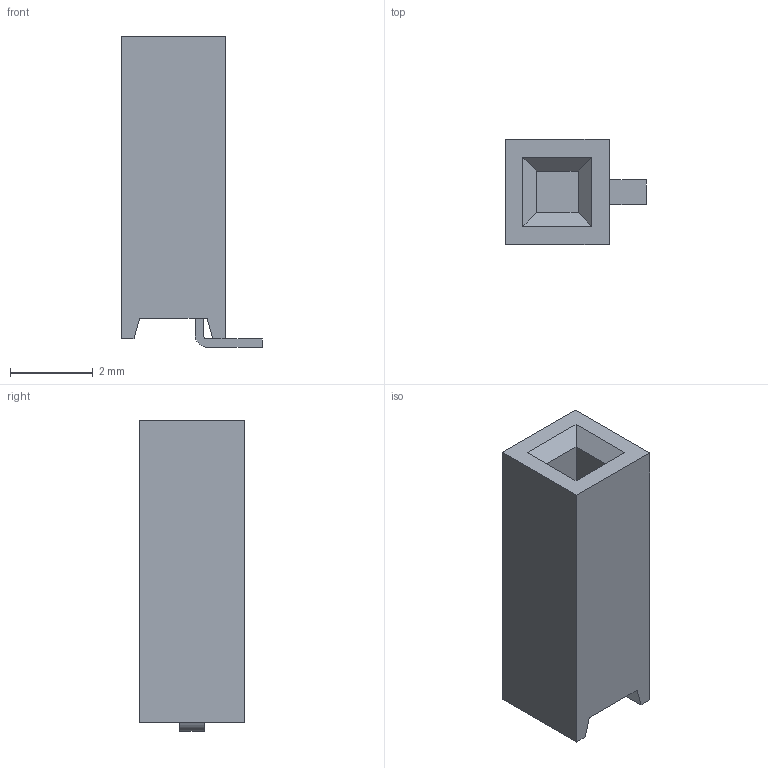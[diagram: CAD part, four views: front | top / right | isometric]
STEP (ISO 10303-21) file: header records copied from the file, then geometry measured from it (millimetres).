
FILE_DESCRIPTION(('FreeCAD Model'),'2;1');
FILE_NAME('Open CASCADE Shape Model','2025-02-24T21:20:07',( 'Krisjanis Rijnieks'),(''),'Open CASCADE STEP processor 7.7', 'FreeCAD','Unknown');
FILE_SCHEMA(('AUTOMOTIVE_DESIGN { 1 0 10303 214 1 1 1 1 }'));
Length unit declared in the file: millimetre
Products named in the file (3): 01x01_P2.54mm_Vertical_SMD; Body; Lead
Assembly tree (2 placements, depth 2):
  01x01_P2.54mm_Vertical_SMD
    Body
    Lead
Bounding box: 3.4 x 2.54 x 7.5 mm (x, y, z)
Volume: 40.4 mm3; surface area: 105.9 mm2
Topology: 2 solids, 2 shells, 29 faces, 68 edges, 44 vertices
Faces by surface type: plane 27, cylinder 2
Entity records: 881 total; most frequent: CARTESIAN_POINT 144, DIRECTION 136, ORIENTED_EDGE 136, EDGE_CURVE 68, LINE 64, VECTOR 64, VERTEX_POINT 44, AXIS2_PLACEMENT_3D 36
